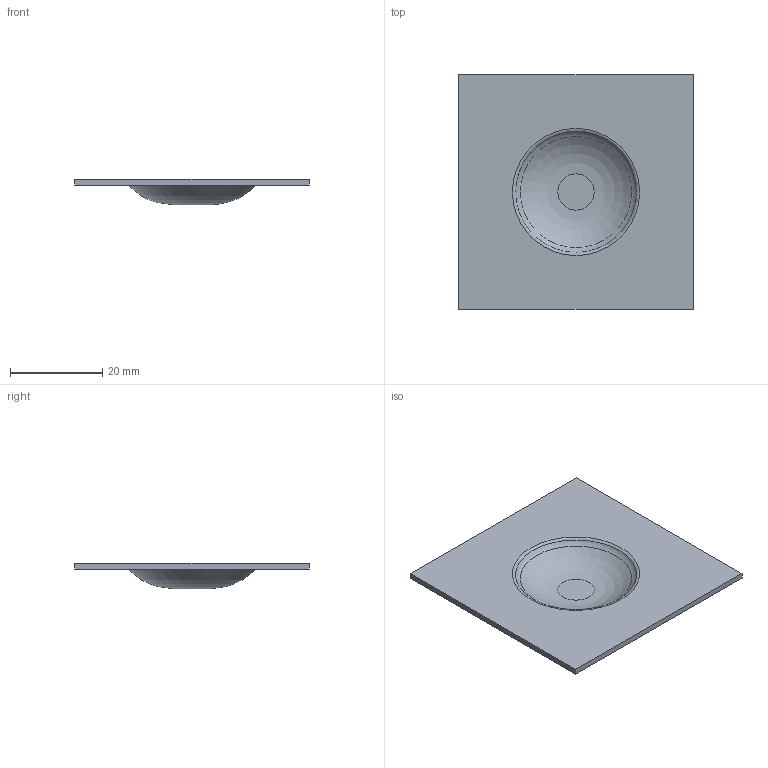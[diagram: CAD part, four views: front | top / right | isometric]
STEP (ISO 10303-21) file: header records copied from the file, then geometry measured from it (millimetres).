
FILE_DESCRIPTION(('PART XYZ REV A'),'1');
FILE_NAME('EF12','2012-03-30T18:08:28',('ERIC'),('TRIAX'),'Spatial Interop R21 SP3','Kubotek KeyCreator 2011 V10.5.0 (24766)','CHAZ');
FILE_SCHEMA(('CONFIG_CONTROL_DESIGN'));
Length unit declared in the file: inch
Products named in the file (1): 1
Bounding box: 50.82 x 50.8 x 5.51 mm (x, y, z)
Volume: 3381.4 mm3; surface area: 5589.7 mm2
Topology: 1 solids, 1 shells, 13 faces, 26 edges, 17 vertices
Faces by surface type: plane 8, torus 5
Entity records: 340 total; most frequent: DIRECTION 54, CARTESIAN_POINT 48, ORIENTED_EDGE 38, AXIS2_PLACEMENT_3D 21, EDGE_LOOP 20, EDGE_CURVE 19, VERTEX_POINT 15, ADVANCED_FACE 13
